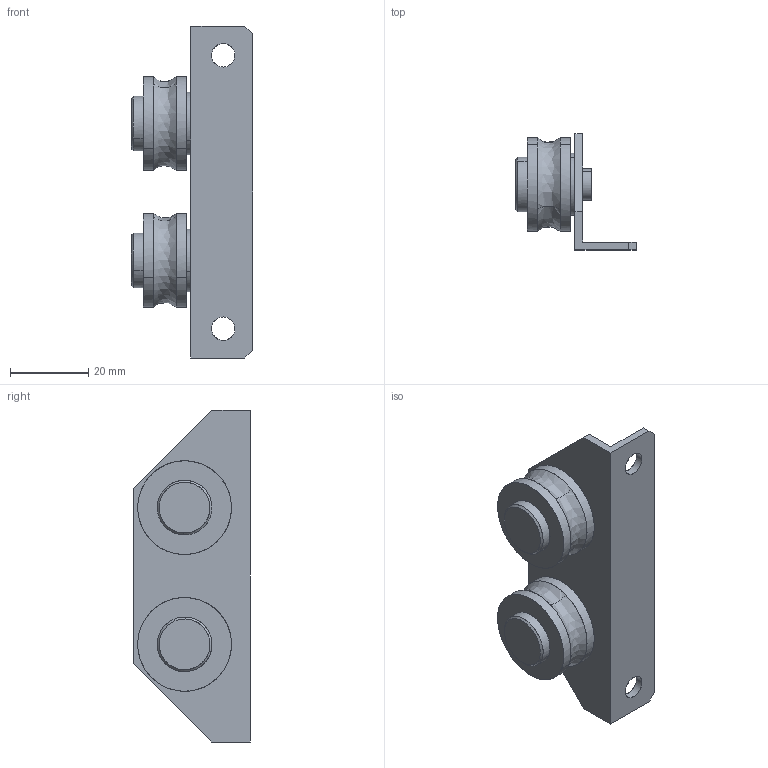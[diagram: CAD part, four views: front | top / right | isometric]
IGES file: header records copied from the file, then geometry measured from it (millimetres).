
Global section: file name: No Iges File Name specified; native system: AutoDesk Inventor R11.0; preprocessor: AutoDesk Inventor Iges Exporter R11.0; author: No Author specified; organization: No Organization specified; date: 20190511.110852; units: millimetre
Bounding box: 31 x 29.8 x 85 mm (x, y, z)
Surface area: 11003.3 mm2 (no closed solid volume)
Topology: 0 solids, 0 shells, 58 faces, 428 edges, 428 vertices
Faces by surface type: bspline 58
